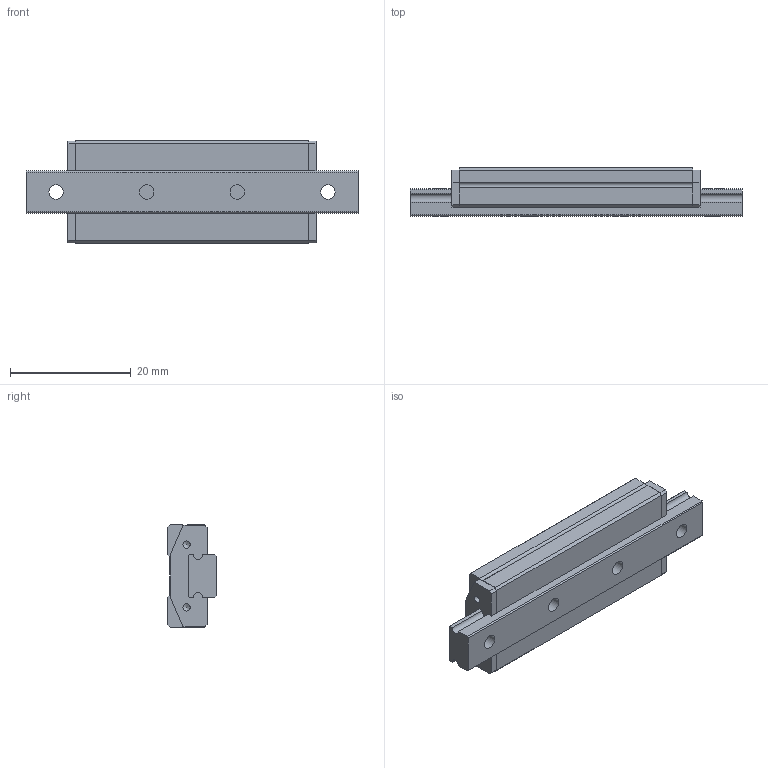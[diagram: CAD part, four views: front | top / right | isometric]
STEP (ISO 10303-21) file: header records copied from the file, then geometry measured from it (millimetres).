
FILE_DESCRIPTION( ( 'STEP AP214' ), '1' );
FILE_NAME( 'p:/temp/worker_50/temp/exporttempdir_6552_434_qBBEl/format_0/Minirail 1 MNNXL 7-55-5-5-G1-V0-(1).stp', '2020-03-25T12:43:16', ( 'License CC BY-ND 4.0' ), ( 'CADENAS' ), ' ', 'PARTsolutions', ' ' );
FILE_SCHEMA( ( 'AUTOMOTIVE_DESIGN { 1 0 10303 214 1 1 1 1 }' ) );
Length unit declared in the file: millimetre
Products named in the file (4): Minirail 1 MNNXL 7-55-5-5-G1-V0-(1); _Schiene 1 MNNXL 7-55-5-5-G1-V0-(1); _MNNXL 7-G1-V0-(1); _Abstreifer-MNNXL7
Assembly tree (4 placements, depth 2):
  Minirail 1 MNNXL 7-55-5-5-G1-V0-(1)
    _Schiene 1 MNNXL 7-55-5-5-G1-V0-(1)
    _MNNXL 7-G1-V0-(1)
    _Abstreifer-MNNXL7  x2
Bounding box: 55 x 8 x 17 mm (x, y, z)
Volume: 4906.5 mm3; surface area: 4480.3 mm2
Topology: 4 solids, 4 shells, 134 faces, 342 edges, 224 vertices
Faces by surface type: plane 79, cylinder 35, cone 20
Full cylindrical faces by diameter (mm): 1.2 x4, 1.567 x6, 2.4 x4, 2.6 x8, 4.2 x4
Entity records: 3830 total; most frequent: DIRECTION 502, CARTESIAN_POINT 495, ORIENTED_EDGE 428, EDGE_CURVE 214, AXIS2_PLACEMENT_3D 177, VERTEX_POINT 170, EDGE_LOOP 164, LINE 148
